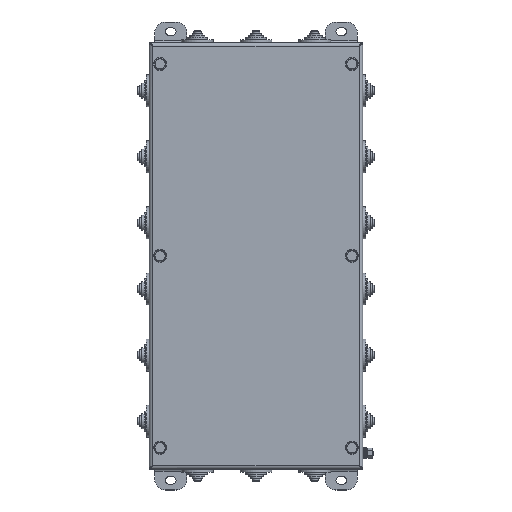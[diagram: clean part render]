
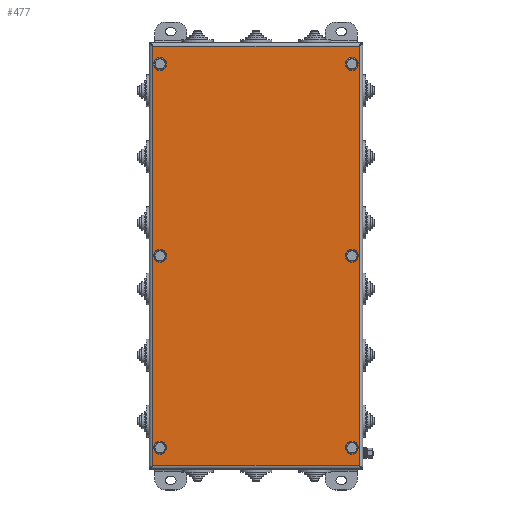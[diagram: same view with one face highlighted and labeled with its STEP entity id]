
A CAD part, top view. The second image highlights one B-rep face of the part: STEP entity #477.
In plain terms, the highlighted planar face has unit normal (0, 0, 1).
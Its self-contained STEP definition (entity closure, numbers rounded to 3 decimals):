
#477=ADVANCED_FACE('',(#31807,#31809,#31811,#31813,#31815,#31817,#31819),#31821,
.T.);
#31807=FACE_BOUND('',#31808,.T.);
#31808=EDGE_LOOP('',(#57096,#57097,#57098,#57099));
#31809=FACE_BOUND('',#31810,.T.);
#31810=EDGE_LOOP('',(#57100));
#31811=FACE_BOUND('',#31812,.T.);
#31812=EDGE_LOOP('',(#57101));
#31813=FACE_BOUND('',#31814,.T.);
#31814=EDGE_LOOP('',(#57102));
#31815=FACE_BOUND('',#31816,.T.);
#31816=EDGE_LOOP('',(#57103));
#31817=FACE_BOUND('',#31818,.T.);
#31818=EDGE_LOOP('',(#57104));
#31819=FACE_BOUND('',#31820,.T.);
#31820=EDGE_LOOP('',(#57105));
#31821=PLANE('',#31822);
#31822=AXIS2_PLACEMENT_3D('',#31823,#31824,#31825);
#31823=CARTESIAN_POINT('',(0.,0.,61.5));
#31824=DIRECTION('',(0.,-0.,1.));
#31825=DIRECTION('',(0.,1.,0.));
#57096=ORIENTED_EDGE('',*,*,#78633,.T.);
#57097=ORIENTED_EDGE('',*,*,#78634,.T.);
#57098=ORIENTED_EDGE('',*,*,#78635,.T.);
#57099=ORIENTED_EDGE('',*,*,#78636,.T.);
#57100=ORIENTED_EDGE('',*,*,#78540,.T.);
#57101=ORIENTED_EDGE('',*,*,#78534,.T.);
#57102=ORIENTED_EDGE('',*,*,#78528,.T.);
#57103=ORIENTED_EDGE('',*,*,#78522,.T.);
#57104=ORIENTED_EDGE('',*,*,#78516,.T.);
#57105=ORIENTED_EDGE('',*,*,#78510,.T.);
#78510=EDGE_CURVE('',#87497,#87497,#87498,.F.);
#78516=EDGE_CURVE('',#87509,#87509,#87510,.F.);
#78522=EDGE_CURVE('',#87521,#87521,#87522,.F.);
#78528=EDGE_CURVE('',#87533,#87533,#87534,.F.);
#78534=EDGE_CURVE('',#87545,#87545,#87546,.F.);
#78540=EDGE_CURVE('',#87557,#87557,#87558,.F.);
#78633=EDGE_CURVE('',#87739,#87740,#87741,.T.);
#78634=EDGE_CURVE('',#87740,#87742,#87743,.T.);
#78635=EDGE_CURVE('',#87742,#87744,#87745,.T.);
#78636=EDGE_CURVE('',#87744,#87739,#87746,.T.);
#87497=VERTEX_POINT('',#102440);
#87498=CIRCLE('',#102441,6.);
#87509=VERTEX_POINT('',#102470);
#87510=CIRCLE('',#102471,6.);
#87521=VERTEX_POINT('',#102500);
#87522=CIRCLE('',#102501,6.);
#87533=VERTEX_POINT('',#102530);
#87534=CIRCLE('',#102531,6.);
#87545=VERTEX_POINT('',#102560);
#87546=CIRCLE('',#102561,6.);
#87557=VERTEX_POINT('',#102590);
#87558=CIRCLE('',#102591,6.);
#87739=VERTEX_POINT('',#103014);
#87740=VERTEX_POINT('',#103015);
#87741=LINE('',#103016,#103017);
#87742=VERTEX_POINT('',#103019);
#87743=LINE('',#103020,#103021);
#87744=VERTEX_POINT('',#103023);
#87745=LINE('',#103024,#103025);
#87746=LINE('',#103027,#103028);
#102440=CARTESIAN_POINT('',(96.,180.,61.5));
#102441=AXIS2_PLACEMENT_3D('',#102442,#102443,#102444);
#102442=CARTESIAN_POINT('',(90.,180.,61.5));
#102443=DIRECTION('',(0.,-0.,1.));
#102444=DIRECTION('',(1.,0.,0.));
#102470=CARTESIAN_POINT('',(-84.,180.,61.5));
#102471=AXIS2_PLACEMENT_3D('',#102472,#102473,#102474);
#102472=CARTESIAN_POINT('',(-90.,180.,61.5));
#102473=DIRECTION('',(0.,-0.,1.));
#102474=DIRECTION('',(1.,0.,0.));
#102500=CARTESIAN_POINT('',(96.,0.,61.5));
#102501=AXIS2_PLACEMENT_3D('',#102502,#102503,#102504);
#102502=CARTESIAN_POINT('',(90.,0.,61.5));
#102503=DIRECTION('',(0.,-0.,1.));
#102504=DIRECTION('',(1.,0.,0.));
#102530=CARTESIAN_POINT('',(-84.,0.,61.5));
#102531=AXIS2_PLACEMENT_3D('',#102532,#102533,#102534);
#102532=CARTESIAN_POINT('',(-90.,0.,61.5));
#102533=DIRECTION('',(0.,-0.,1.));
#102534=DIRECTION('',(1.,0.,0.));
#102560=CARTESIAN_POINT('',(96.,-180.,61.5));
#102561=AXIS2_PLACEMENT_3D('',#102562,#102563,#102564);
#102562=CARTESIAN_POINT('',(90.,-180.,61.5));
#102563=DIRECTION('',(0.,-0.,1.));
#102564=DIRECTION('',(1.,0.,0.));
#102590=CARTESIAN_POINT('',(-84.,-180.,61.5));
#102591=AXIS2_PLACEMENT_3D('',#102592,#102593,#102594);
#102592=CARTESIAN_POINT('',(-90.,-180.,61.5));
#102593=DIRECTION('',(0.,-0.,1.));
#102594=DIRECTION('',(1.,0.,0.));
#103014=CARTESIAN_POINT('',(-96.8,196.8,61.5));
#103015=CARTESIAN_POINT('',(-96.8,-196.8,61.5));
#103016=CARTESIAN_POINT('',(-96.8,196.8,61.5));
#103017=VECTOR('',#103018,1.);
#103018=DIRECTION('',(0.,-1.,0.));
#103019=CARTESIAN_POINT('',(96.8,-196.8,61.5));
#103020=CARTESIAN_POINT('',(-96.8,-196.8,61.5));
#103021=VECTOR('',#103022,1.);
#103022=DIRECTION('',(1.,0.,0.));
#103023=CARTESIAN_POINT('',(96.8,196.8,61.5));
#103024=CARTESIAN_POINT('',(96.8,-196.8,61.5));
#103025=VECTOR('',#103026,1.);
#103026=DIRECTION('',(0.,1.,0.));
#103027=CARTESIAN_POINT('',(96.8,196.8,61.5));
#103028=VECTOR('',#103029,1.);
#103029=DIRECTION('',(-1.,0.,0.));
